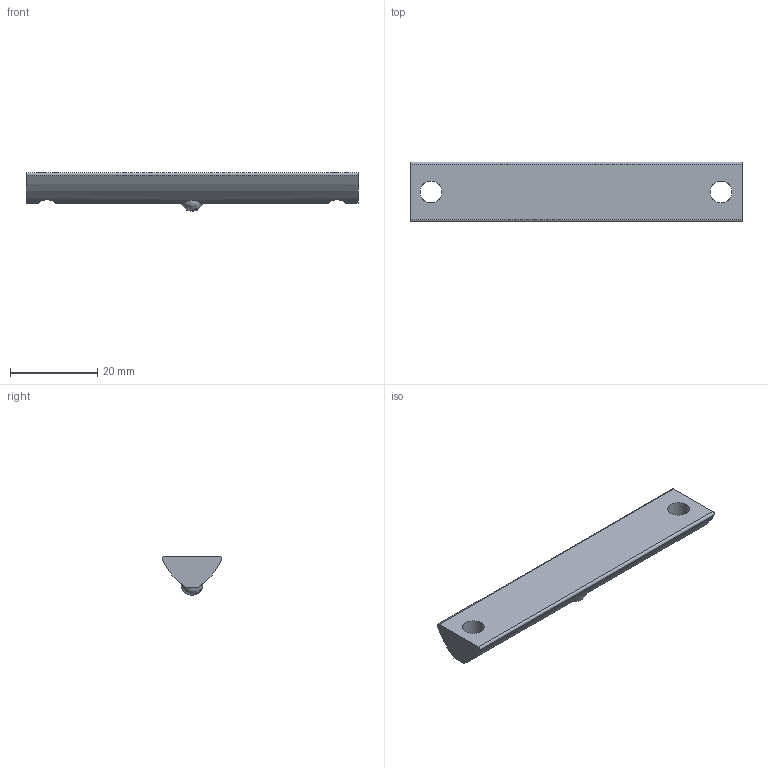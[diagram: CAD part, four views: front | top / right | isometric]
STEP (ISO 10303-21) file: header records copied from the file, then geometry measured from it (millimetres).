
FILE_DESCRIPTION (( 'STEP AP203' ), '1' );
FILE_NAME ('0108NSM6-76ST.STEP', '2024-03-05T08:57:04', ( 'Windows-Benutzer' ), ( '' ), 'SwSTEP 2.0', 'SolidWorks 2023', '' );
FILE_SCHEMA (( 'CONFIG_CONTROL_DESIGN' ));
Length unit declared in the file: millimetre
Products named in the file (1): 0108NSM6-76ST
Bounding box: 76 x 13.7 x 8.9 mm (x, y, z)
Volume: 4932.3 mm3; surface area: 2892.5 mm2
Topology: 1 solids, 1 shells, 18 faces, 60 edges, 38 vertices
Faces by surface type: cylinder 8, plane 7, bspline 3
Entity records: 886 total; most frequent: CARTESIAN_POINT 310, ORIENTED_EDGE 112, DIRECTION 100, EDGE_CURVE 56, AXIS2_PLACEMENT_3D 40, VERTEX_POINT 38, CIRCLE 24, LINE 20
